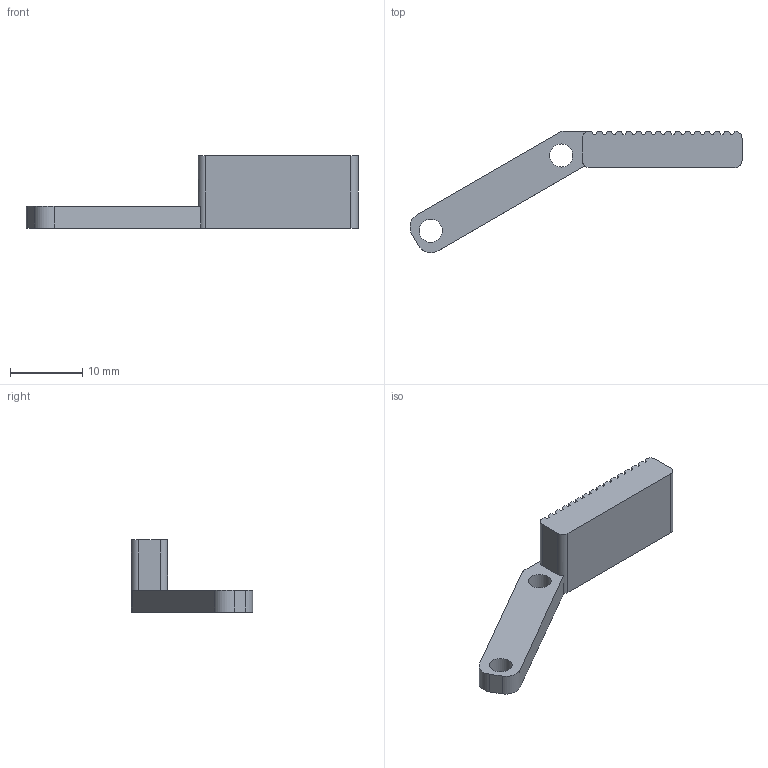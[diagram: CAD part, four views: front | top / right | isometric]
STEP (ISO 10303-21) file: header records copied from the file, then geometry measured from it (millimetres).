
FILE_DESCRIPTION(/* description */ (''),/* implementation_level */ '2;1');
FILE_NAME(/* name */ 'Right Claw_v14.tmp.step',/* time_stamp */ '2026-11-01T13:10:31+02:00',/* author */ (''),/* organization */ (''),/* preprocessor_version */ 'ST-DEVELOPER v20.2',/* originating_system */ 'Autodesk Translation Framework v15.15.0.0',/* authorisation */ '');
FILE_SCHEMA (('AUTOMOTIVE_DESIGN { 1 0 10303 214 3 1 1 }'));
Length unit declared in the file: millimetre
Products named in the file (1): Right Claw
Bounding box: 45.92 x 16.77 x 10 mm (x, y, z)
Volume: 1458.1 mm3; surface area: 1316.3 mm2
Topology: 1 solids, 1 shells, 78 faces, 228 edges, 152 vertices
Faces by surface type: plane 69, cylinder 9
Full cylindrical faces by diameter (mm): 3.2 x2
Entity records: 2592 total; most frequent: CARTESIAN_POINT 459, ORIENTED_EDGE 456, DIRECTION 405, EDGE_CURVE 228, LINE 209, VECTOR 209, VERTEX_POINT 152, AXIS2_PLACEMENT_3D 98
